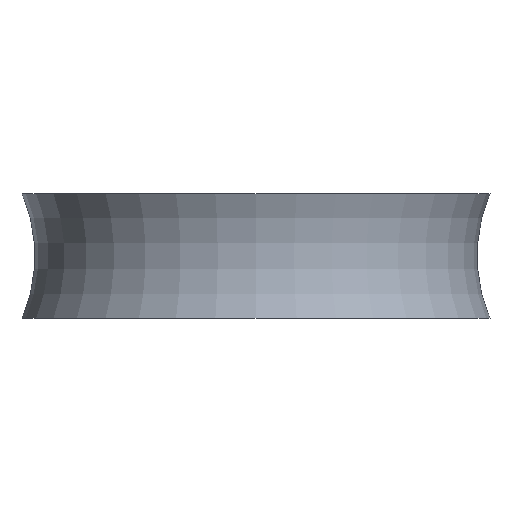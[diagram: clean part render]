
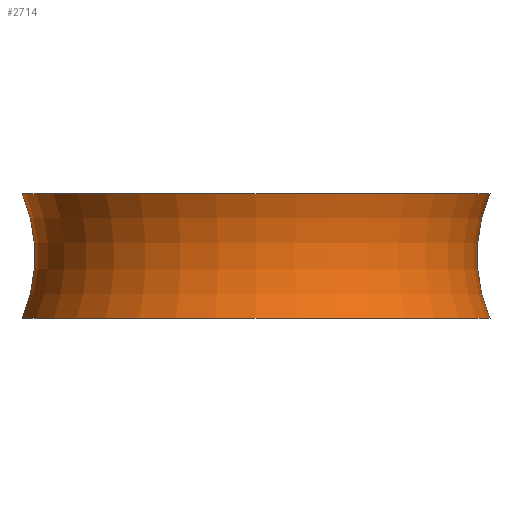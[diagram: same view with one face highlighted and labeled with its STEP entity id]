
A CAD part, front view. The second image highlights one B-rep face of the part: STEP entity #2714.
In plain terms, the highlighted toroidal (fillet/blend) face has major radius 120.877 mm and minor radius 50.047 mm.
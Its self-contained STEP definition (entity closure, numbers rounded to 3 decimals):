
#43 = PLANE('',#44);
#44 = AXIS2_PLACEMENT_3D('',#45,#46,#47);
#45 = CARTESIAN_POINT('',(0.,0.,20.));
#46 = DIRECTION('',(0.,-0.,1.));
#47 = DIRECTION('',(-0.,-1.,-0.));
#97 = PLANE('',#98);
#98 = AXIS2_PLACEMENT_3D('',#99,#100,#101);
#99 = CARTESIAN_POINT('',(0.,0.,-20.));
#100 = DIRECTION('',(0.,0.,-1.));
#101 = DIRECTION('',(-0.,1.,0.));
#1041 = EDGE_CURVE('',#1042,#1042,#1044,.T.);
#1042 = VERTEX_POINT('',#1043);
#1043 = CARTESIAN_POINT('',(0.,75.,20.));
#1044 = SURFACE_CURVE('',#1045,(#1050,#1061),.PCURVE_S1.);
#1045 = CIRCLE('',#1046,75.);
#1046 = AXIS2_PLACEMENT_3D('',#1047,#1048,#1049);
#1047 = CARTESIAN_POINT('',(0.,0.,20.));
#1048 = DIRECTION('',(0.,0.,-1.));
#1049 = DIRECTION('',(0.,1.,0.));
#1050 = PCURVE('',#43,#1051);
#1051 = DEFINITIONAL_REPRESENTATION('',(#1052),#1060);
#1052 = ( BOUNDED_CURVE() B_SPLINE_CURVE(2,(#1053,#1054,#1055,#1056,
#1057,#1058,#1059),.UNSPECIFIED.,.T.,.F.) B_SPLINE_CURVE_WITH_KNOTS((1,2
    ,2,2,2,1),(-2.094,0.,2.094,4.189,
6.283,8.378),.UNSPECIFIED.) CURVE() 
GEOMETRIC_REPRESENTATION_ITEM() RATIONAL_B_SPLINE_CURVE((1.,0.5,1.,0.5,
1.,0.5,1.)) REPRESENTATION_ITEM('') );
#1053 = CARTESIAN_POINT('',(-75.,0.));
#1054 = CARTESIAN_POINT('',(-75.,129.904));
#1055 = CARTESIAN_POINT('',(37.5,64.952));
#1056 = CARTESIAN_POINT('',(150.,0.));
#1057 = CARTESIAN_POINT('',(37.5,-64.952));
#1058 = CARTESIAN_POINT('',(-75.,-129.904));
#1059 = CARTESIAN_POINT('',(-75.,0.));
#1060 = ( GEOMETRIC_REPRESENTATION_CONTEXT(2) 
PARAMETRIC_REPRESENTATION_CONTEXT() REPRESENTATION_CONTEXT('2D SPACE',''
  ) );
#1061 = PCURVE('',#1062,#1067);
#1062 = TOROIDAL_SURFACE('',#1063,120.877,50.047);
#1063 = AXIS2_PLACEMENT_3D('',#1064,#1065,#1066);
#1064 = CARTESIAN_POINT('',(0.,0.,0.));
#1065 = DIRECTION('',(0.,0.,-1.));
#1066 = DIRECTION('',(0.,1.,0.));
#1067 = DEFINITIONAL_REPRESENTATION('',(#1068),#1072);
#1068 = LINE('',#1069,#1070);
#1069 = CARTESIAN_POINT('',(0.,3.553));
#1070 = VECTOR('',#1071,1.);
#1071 = DIRECTION('',(1.,0.));
#1072 = ( GEOMETRIC_REPRESENTATION_CONTEXT(2) 
PARAMETRIC_REPRESENTATION_CONTEXT() REPRESENTATION_CONTEXT('2D SPACE',''
  ) );
#1083 = EDGE_CURVE('',#1084,#1084,#1086,.T.);
#1084 = VERTEX_POINT('',#1085);
#1085 = CARTESIAN_POINT('',(0.,75.,-20.));
#1086 = SURFACE_CURVE('',#1087,(#1092,#1099),.PCURVE_S1.);
#1087 = CIRCLE('',#1088,75.);
#1088 = AXIS2_PLACEMENT_3D('',#1089,#1090,#1091);
#1089 = CARTESIAN_POINT('',(0.,0.,-20.));
#1090 = DIRECTION('',(0.,0.,-1.));
#1091 = DIRECTION('',(0.,1.,0.));
#1092 = PCURVE('',#97,#1093);
#1093 = DEFINITIONAL_REPRESENTATION('',(#1094),#1098);
#1094 = CIRCLE('',#1095,75.);
#1095 = AXIS2_PLACEMENT_2D('',#1096,#1097);
#1096 = CARTESIAN_POINT('',(0.,0.));
#1097 = DIRECTION('',(1.,-0.));
#1098 = ( GEOMETRIC_REPRESENTATION_CONTEXT(2) 
PARAMETRIC_REPRESENTATION_CONTEXT() REPRESENTATION_CONTEXT('2D SPACE',''
  ) );
#1099 = PCURVE('',#1062,#1100);
#1100 = DEFINITIONAL_REPRESENTATION('',(#1101),#1105);
#1101 = LINE('',#1102,#1103);
#1102 = CARTESIAN_POINT('',(0.,2.73));
#1103 = VECTOR('',#1104,1.);
#1104 = DIRECTION('',(1.,0.));
#1105 = ( GEOMETRIC_REPRESENTATION_CONTEXT(2) 
PARAMETRIC_REPRESENTATION_CONTEXT() REPRESENTATION_CONTEXT('2D SPACE',''
  ) );
#2714 = ADVANCED_FACE('',(#2715),#1062,.F.);
#2715 = FACE_BOUND('',#2716,.F.);
#2716 = EDGE_LOOP('',(#2717,#2718,#2740,#2741));
#2717 = ORIENTED_EDGE('',*,*,#1083,.T.);
#2718 = ORIENTED_EDGE('',*,*,#2719,.T.);
#2719 = EDGE_CURVE('',#1084,#1042,#2720,.T.);
#2720 = SEAM_CURVE('',#2721,(#2726,#2733),.PCURVE_S1.);
#2721 = CIRCLE('',#2722,50.047);
#2722 = AXIS2_PLACEMENT_3D('',#2723,#2724,#2725);
#2723 = CARTESIAN_POINT('',(0.,120.877,
    0.));
#2724 = DIRECTION('',(-1.,0.,0.));
#2725 = DIRECTION('',(0.,-0.917,-0.4)
  );
#2726 = PCURVE('',#1062,#2727);
#2727 = DEFINITIONAL_REPRESENTATION('',(#2728),#2732);
#2728 = LINE('',#2729,#2730);
#2729 = CARTESIAN_POINT('',(0.,2.73));
#2730 = VECTOR('',#2731,1.);
#2731 = DIRECTION('',(0.,1.));
#2732 = ( GEOMETRIC_REPRESENTATION_CONTEXT(2) 
PARAMETRIC_REPRESENTATION_CONTEXT() REPRESENTATION_CONTEXT('2D SPACE',''
  ) );
#2733 = PCURVE('',#1062,#2734);
#2734 = DEFINITIONAL_REPRESENTATION('',(#2735),#2739);
#2735 = LINE('',#2736,#2737);
#2736 = CARTESIAN_POINT('',(6.283,2.73));
#2737 = VECTOR('',#2738,1.);
#2738 = DIRECTION('',(0.,1.));
#2739 = ( GEOMETRIC_REPRESENTATION_CONTEXT(2) 
PARAMETRIC_REPRESENTATION_CONTEXT() REPRESENTATION_CONTEXT('2D SPACE',''
  ) );
#2740 = ORIENTED_EDGE('',*,*,#1041,.F.);
#2741 = ORIENTED_EDGE('',*,*,#2719,.F.);
